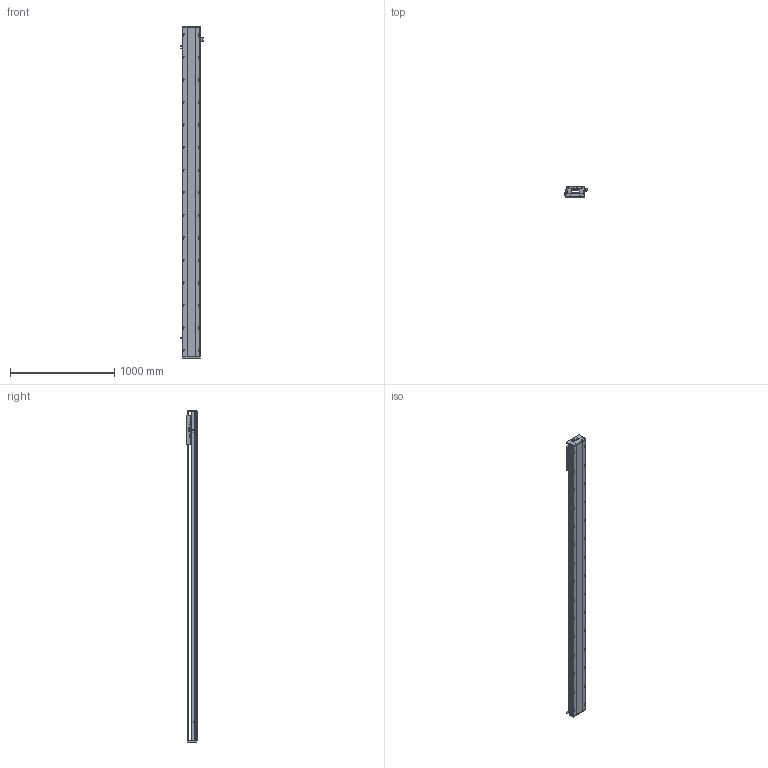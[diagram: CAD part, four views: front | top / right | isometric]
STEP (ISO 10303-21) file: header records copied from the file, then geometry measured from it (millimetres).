
FILE_DESCRIPTION (( 'STEP AP203' ), '1' );
FILE_NAME ('SKR17S-C2-S2800（简）.STEP', '2022-09-29T08:30:12', ( '' ), ( '' ), 'SwSTEP 2.0', 'SolidWorks 2018', '' );
FILE_SCHEMA (( 'CONFIG_CONTROL_DESIGN' ));
Length unit declared in the file: millimetre
Products named in the file (8): EE-SX672; SIKO棠掑; 棠掑假蚾輸; SKR17耜啣; 感应片（SKR12S-14S-17S）; SKR17S-C2-S2800（简）; SKR17滑台-280L（简）; SKR17底座-C2-S2800（简)
Assembly tree (10 placements, depth 2):
  SKR17S-C2-S2800（简）
    SKR17底座-C2-S2800（简)
    SIKO棠掑
    EE-SX672  x3
    SKR17耜啣  x2
    棠掑假蚾輸
    SKR17滑台-280L（简）
    感应片（SKR12S-14S-17S）
Bounding box: 212.7 x 97 x 3180 mm (x, y, z)
Volume: 24438297.6 mm3; surface area: 2931461 mm2
Topology: 11 solids, 11 shells, 1528 faces, 4284 edges, 2748 vertices
Faces by surface type: cylinder 781, plane 593, cone 154
Entity records: 48675 total; most frequent: CARTESIAN_POINT 13647, ORIENTED_EDGE 7508, DIRECTION 6709, EDGE_CURVE 3754, VERTEX_POINT 2452, AXIS2_PLACEMENT_3D 2394, VECTOR 1921, LINE 1921
